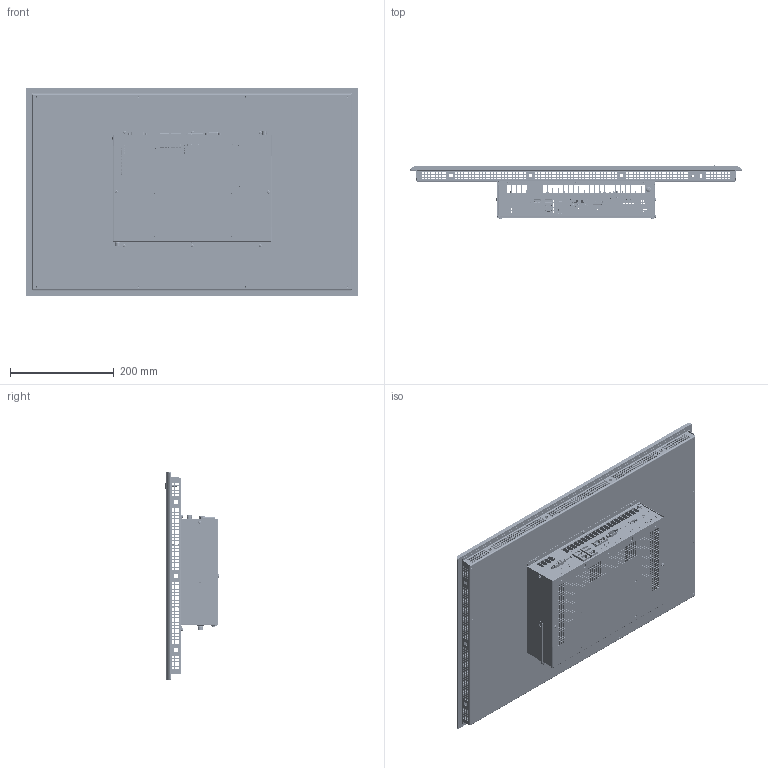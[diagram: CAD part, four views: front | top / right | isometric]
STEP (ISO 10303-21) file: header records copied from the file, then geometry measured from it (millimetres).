
FILE_DESCRIPTION (( 'STEP AP214' ), '1' );
FILE_NAME ('C6P34-Panel_240W_Res_S0.STEP', '2019-09-20T09:39:09', ( '' ), ( '' ), 'SwSTEP 2.0', 'SolidWorks 2018', '' );
FILE_SCHEMA (( 'AUTOMOTIVE_DESIGN' ));
Length unit declared in the file: millimetre
Products named in the file (151): 51524089; 66320001; 65720030; 65720029; 21405029; 23330039; 69111028; 62920009; 62920002; 56636586; 21502089; 58755004; 66320015; 59702265; 21614000; 58702102; D02201702; 14300025; 51702303; 21410052; piazzuola_de800_di370; 48000068; 57936014; 21410056; 21408088; 57936013; 21404036; 58502113; 21410046; 14300028; 7397_227; 52912002; 7359_056; 58702102_Default<A macchina>; D02201701; 7397_227_Depopolato; 21409042; 52536147_Default<A macchina>; 21410015; 66320016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
Assembly tree (109 placements, depth 4):
  51524089
  66320001
  65720030
  51524089
  65720029
Bounding box: 639.5 x 104.03 x 402 mm (x, y, z)
Volume: 2181256.4 mm3; surface area: 2054741.3 mm2
Topology: 224 solids, 242 shells, 28057 faces, 78964 edges, 51808 vertices
Faces by surface type: plane 21975, cylinder 4556, bspline 767, cone 627, torus 112, sphere 20
Full cylindrical faces by diameter (mm): 0.3 x9, 0.434 x1, 0.6 x30, 0.65 x6, 0.7 x165, 0.8 x36, 0.85 x66, 0.9 x175, 0.95 x11, 1 x119, 1.1 x3, 1.2 x10, 1.32 x2, 1.35 x4, 1.4 x8, 1.5 x6, 1.6 x7, 1.7 x4, 1.8 x3, 1.9 x4, 1.95 x4, 2.05 x1, 2.3 x18, 2.4 x9, 2.5 x38, 2.6 x5, 2.8 x3, 2.874 x1, 3 x80, 3.15 x2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
Entity records: 838905 total; most frequent: CARTESIAN_POINT 175412, ORIENTED_EDGE 137064, DIRECTION 121444, EDGE_CURVE 68922, VECTOR 58788, LINE 58788, VERTEX_POINT 45965, EDGE_LOOP 32330
